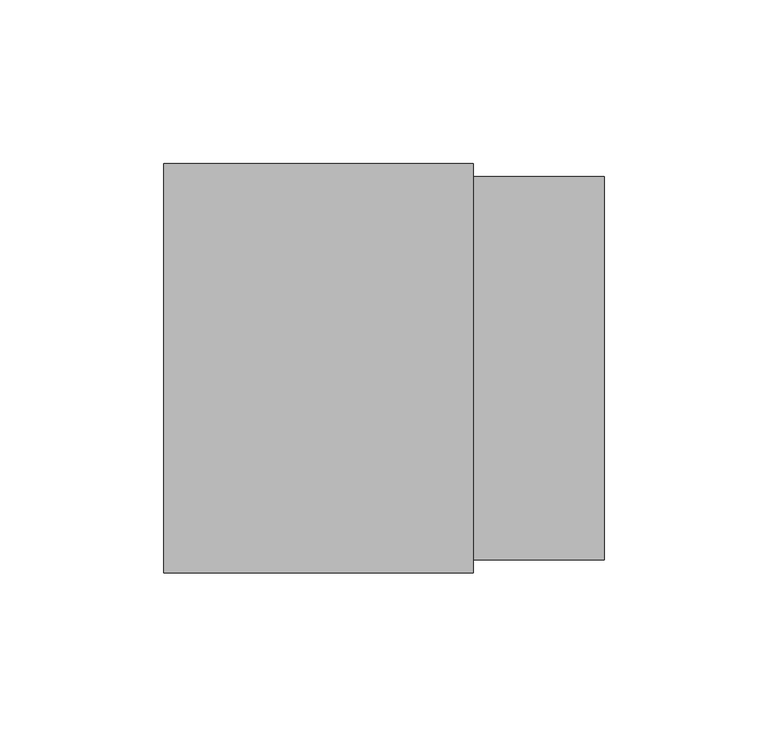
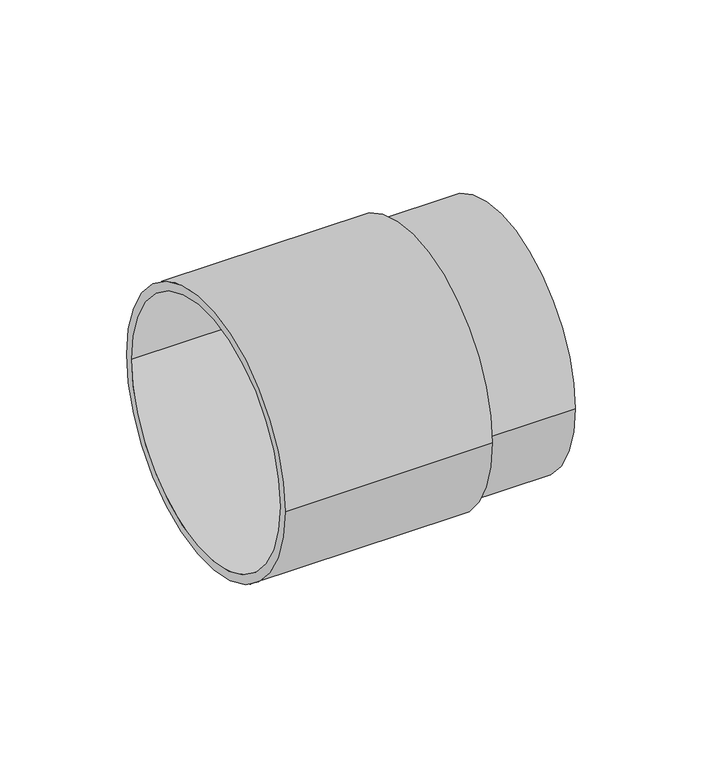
"""IFC4 building model written with IfcOpenShell, lengths in millimetres: duct fitting geometry, NLRS_57_DUF_UN_terminal extension_M&G : 117/125mm."""

from ifc_helpers import new_model, si_unit, point, frame, origin, origin_2d, place, context, project, spatial, circle_curve, trimmed, segment, composite_curve, outline, extrude, source, transform, mapped, element, save


def duct_fitting_599ff9e1(model_context):
    return source(origin(), model_context, "Body", "SweptSolid", [
        extrude(outline(composite_curve([segment(trimmed(circle_curve(origin_2d(), 58.5), [point((-58.5, 0.0))], [point((58.5, 0.0))], False, "CARTESIAN"), True, "CONTINUOUS"), segment(trimmed(circle_curve(origin_2d(), 58.5), [point((58.5, 0.0))], [point((-58.5, 0.0))], False, "CARTESIAN"), True, "CONTINUOUS")], self_intersect=False)), frame((94.4821155, 0.0, 0.0), z_axis=(1.0, 0.0, 0.0), x_axis=(0.0, 1.0, 0.0)), (0.0, 0.0, 1.0), 40.0),
        extrude(outline(composite_curve([segment(trimmed(circle_curve(origin_2d(), 62.5), [point((-62.5, 0.0))], [point((62.5, 0.0))], False, "CARTESIAN"), True, "CONTINUOUS"), segment(trimmed(circle_curve(origin_2d(), 62.5), [point((62.5, 0.0))], [point((-62.5, 0.0))], False, "CARTESIAN"), True, "CONTINUOUS")], self_intersect=False), holes=[composite_curve([segment(trimmed(circle_curve(origin_2d(), 58.5), [point((-58.5, 0.0))], [point((58.5, 0.0))], True, "CARTESIAN"), True, "CONTINUOUS"), segment(trimmed(circle_curve(origin_2d(), 58.5), [point((58.5, 0.0))], [point((-58.5, 0.0))], True, "CARTESIAN"), True, "CONTINUOUS")], self_intersect=False)]), frame((0.0, 0.0, 0.0), z_axis=(1.0, 0.0, 0.0), x_axis=(0.0, 1.0, 0.0)), (0.0, 0.0, 1.0), 94.4821155),
    ])


if __name__ == "__main__":
    model = new_model("IFC4")
    model_context = context("Model", 3, world=origin())
    ifc_project = project(units=[si_unit("LENGTHUNIT", "METRE", prefix="MILLI")], contexts=[model_context])
    site = spatial("IfcSite", under=ifc_project)
    building = spatial("IfcBuilding", under=site)
    placement = place(None, origin())
    duct_fitting_shape = duct_fitting_599ff9e1(model_context)
    element("IfcDuctFitting", 1, ObjectType="NLRS_57_DUF_UN_terminal extension_M&G : 117/125mm", at=placement, inside=building, context=model_context, shape_type="MappedRepresentation", body=[
        mapped(duct_fitting_shape, transform((0.0, 0.0, 0.0), x_axis=(1.0, 0.0, 0.0), y_axis=(0.0, 1.0, 0.0), z_axis=(0.0, 0.0, 1.0))),
    ])
    save(model, "model.ifc")
